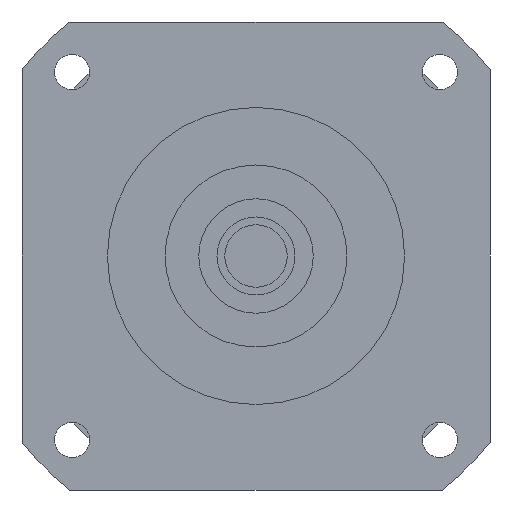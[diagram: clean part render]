
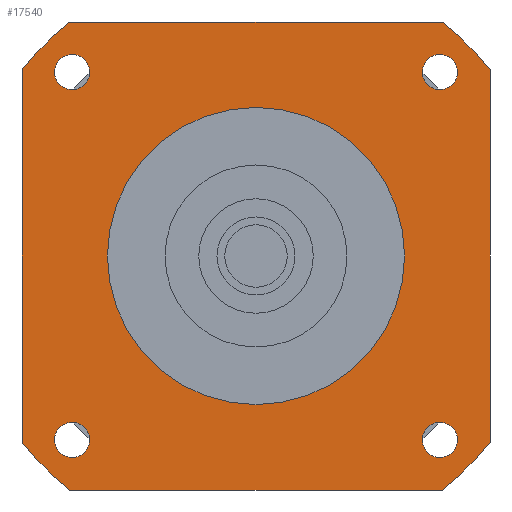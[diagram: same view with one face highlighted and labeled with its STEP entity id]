
A CAD part, left-side view. The second image highlights one B-rep face of the part: STEP entity #17540.
In plain terms, the highlighted planar face has unit normal (-1, 0, 0) as drawn and (0, 0, -1) by its records, which use the part's own axes.
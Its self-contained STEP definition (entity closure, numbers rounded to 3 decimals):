
#13210=CARTESIAN_POINT('',(63.961,-70.711,-66.7));
#13220=VERTEX_POINT('',#13210);
#13250=CARTESIAN_POINT('',(70.711,-70.711,-66.7));
#13260=DIRECTION('',(0.,0.,-1.));
#13270=DIRECTION('',(1.,0.,0.));
#13280=AXIS2_PLACEMENT_3D('',#13250,#13260,#13270);
#13290=CIRCLE('',#13280,6.75);
#13300=CARTESIAN_POINT('',(77.461,-70.711,-66.7));
#13310=VERTEX_POINT('',#13300);
#13320=EDGE_CURVE('',#13310,#13220,#13290,.T.);
#15970=CARTESIAN_POINT('',(70.711,63.961,-66.7));
#15980=VERTEX_POINT('',#15970);
#16010=CARTESIAN_POINT('',(70.711,70.711,-66.7));
#16020=DIRECTION('',(0.,0.,-1.));
#16030=DIRECTION('',(0.,1.,0.));
#16040=AXIS2_PLACEMENT_3D('',#16010,#16020,#16030);
#16050=CIRCLE('',#16040,6.75);
#16060=CARTESIAN_POINT('',(70.711,77.461,-66.7));
#16070=VERTEX_POINT('',#16060);
#16080=EDGE_CURVE('',#16070,#15980,#16050,.T.);
#16200=CARTESIAN_POINT('',(90.,90.,-66.7));
#16210=DIRECTION('',(0.,0.,-1.));
#16220=DIRECTION('',(1.,0.,0.));
#16230=AXIS2_PLACEMENT_3D('',#16200,#16210,#16220);
#16240=PLANE('',#16230);
#16250=CARTESIAN_POINT('',(-70.711,-70.711,-66.7));
#16260=DIRECTION('',(0.,0.,-1.));
#16270=DIRECTION('',(0.,-1.,0.));
#16280=AXIS2_PLACEMENT_3D('',#16250,#16260,#16270);
#16290=CIRCLE('',#16280,6.75);
#16300=CARTESIAN_POINT('',(-70.711,-77.461,-66.7));
#16310=VERTEX_POINT('',#16300);
#16320=CARTESIAN_POINT('',(-70.711,-63.961,-66.7));
#16330=VERTEX_POINT('',#16320);
#16340=EDGE_CURVE('',#16310,#16330,#16290,.T.);
#16350=ORIENTED_EDGE('',*,*,#16340,.F.);
#16360=EDGE_CURVE('',#16330,#16310,#16290,.T.);
#16370=ORIENTED_EDGE('',*,*,#16360,.F.);
#16380=EDGE_LOOP('',(#16370,#16350));
#16390=FACE_BOUND('',#16380,.T.);
#16400=CARTESIAN_POINT('',(-70.711,70.711,-66.7));
#16410=DIRECTION('',(0.,0.,-1.));
#16420=DIRECTION('',(-1.,0.,0.));
#16430=AXIS2_PLACEMENT_3D('',#16400,#16410,#16420);
#16440=CIRCLE('',#16430,6.75);
#16450=CARTESIAN_POINT('',(-77.461,70.711,-66.7));
#16460=VERTEX_POINT('',#16450);
#16470=CARTESIAN_POINT('',(-63.961,70.711,-66.7));
#16480=VERTEX_POINT('',#16470);
#16490=EDGE_CURVE('',#16460,#16480,#16440,.T.);
#16500=ORIENTED_EDGE('',*,*,#16490,.F.);
#16510=EDGE_CURVE('',#16480,#16460,#16440,.T.);
#16520=ORIENTED_EDGE('',*,*,#16510,.F.);
#16530=EDGE_LOOP('',(#16520,#16500));
#16540=FACE_BOUND('',#16530,.T.);
#16550=ORIENTED_EDGE('',*,*,#16080,.F.);
#16560=EDGE_CURVE('',#15980,#16070,#16050,.T.);
#16570=ORIENTED_EDGE('',*,*,#16560,.F.);
#16580=EDGE_LOOP('',(#16570,#16550));
#16590=FACE_BOUND('',#16580,.T.);
#16600=CARTESIAN_POINT('',(0.,0.,
-66.7));
#16610=DIRECTION('',(0.,0.,1.));
#16620=DIRECTION('',(0.,1.,0.));
#16630=AXIS2_PLACEMENT_3D('',#16600,#16610,#16620);
#16640=CIRCLE('',#16630,57.15);
#16650=CARTESIAN_POINT('',(-57.15,0.,-66.7));
#16660=VERTEX_POINT('',#16650);
#16670=CARTESIAN_POINT('',(57.15,0.,-66.7));
#16680=VERTEX_POINT('',#16670);
#16690=EDGE_CURVE('',#16660,#16680,#16640,.T.);
#16700=ORIENTED_EDGE('',*,*,#16690,.T.);
#16710=CARTESIAN_POINT('',(0.,57.15,-66.7));
#16720=VERTEX_POINT('',#16710);
#16730=EDGE_CURVE('',#16720,#16660,#16640,.T.);
#16740=ORIENTED_EDGE('',*,*,#16730,.T.);
#16750=EDGE_CURVE('',#16680,#16720,#16640,.T.);
#16760=ORIENTED_EDGE('',*,*,#16750,.T.);
#16770=EDGE_LOOP('',(#16760,#16740,#16700));
#16780=FACE_BOUND('',#16770,.T.);
#16790=CARTESIAN_POINT('',(-90.,90.,-66.7));
#16800=DIRECTION('',(1.,0.,0.));
#16810=VECTOR('',#16800,1000.);
#16820=LINE('',#16790,#16810);
#16830=CARTESIAN_POINT('',(-71.589,90.,-66.7));
#16840=VERTEX_POINT('',#16830);
#16850=CARTESIAN_POINT('',(71.589,90.,-66.7));
#16860=VERTEX_POINT('',#16850);
#16870=EDGE_CURVE('',#16840,#16860,#16820,.T.);
#16880=ORIENTED_EDGE('',*,*,#16870,.T.);
#16890=CARTESIAN_POINT('',(0.,0.,
-66.7));
#16900=DIRECTION('',(0.,0.,-1.));
#16910=DIRECTION('',(1.,0.,0.));
#16920=AXIS2_PLACEMENT_3D('',#16890,#16900,#16910);
#16930=CIRCLE('',#16920,115.);
#16940=CARTESIAN_POINT('',(-90.,71.589,-66.7));
#16950=VERTEX_POINT('',#16940);
#16960=EDGE_CURVE('',#16950,#16840,#16930,.T.);
#16970=ORIENTED_EDGE('',*,*,#16960,.T.);
#16980=CARTESIAN_POINT('',(-90.,-90.,-66.7));
#16990=DIRECTION('',(0.,1.,0.));
#17000=VECTOR('',#16990,1000.);
#17010=LINE('',#16980,#17000);
#17020=CARTESIAN_POINT('',(-90.,-71.589,-66.7));
#17030=VERTEX_POINT('',#17020);
#17040=EDGE_CURVE('',#17030,#16950,#17010,.T.);
#17050=ORIENTED_EDGE('',*,*,#17040,.T.);
#17060=CARTESIAN_POINT('',(0.,0.,
-66.7));
#17070=DIRECTION('',(0.,0.,-1.));
#17080=DIRECTION('',(1.,0.,0.));
#17090=AXIS2_PLACEMENT_3D('',#17060,#17070,#17080);
#17100=CIRCLE('',#17090,115.);
#17110=CARTESIAN_POINT('',(-71.589,-90.,-66.7));
#17120=VERTEX_POINT('',#17110);
#17130=EDGE_CURVE('',#17120,#17030,#17100,.T.);
#17140=ORIENTED_EDGE('',*,*,#17130,.T.);
#17150=CARTESIAN_POINT('',(90.,-90.,-66.7));
#17160=DIRECTION('',(-1.,0.,0.));
#17170=VECTOR('',#17160,1000.);
#17180=LINE('',#17150,#17170);
#17190=CARTESIAN_POINT('',(71.589,-90.,-66.7));
#17200=VERTEX_POINT('',#17190);
#17210=EDGE_CURVE('',#17200,#17120,#17180,.T.);
#17220=ORIENTED_EDGE('',*,*,#17210,.T.);
#17230=CARTESIAN_POINT('',(0.,0.,
-66.7));
#17240=DIRECTION('',(0.,0.,-1.));
#17250=DIRECTION('',(1.,0.,0.));
#17260=AXIS2_PLACEMENT_3D('',#17230,#17240,#17250);
#17270=CIRCLE('',#17260,115.);
#17280=CARTESIAN_POINT('',(90.,-71.589,-66.7));
#17290=VERTEX_POINT('',#17280);
#17300=EDGE_CURVE('',#17290,#17200,#17270,.T.);
#17310=ORIENTED_EDGE('',*,*,#17300,.T.);
#17320=CARTESIAN_POINT('',(90.,90.,-66.7));
#17330=DIRECTION('',(0.,-1.,0.));
#17340=VECTOR('',#17330,1000.);
#17350=LINE('',#17320,#17340);
#17360=CARTESIAN_POINT('',(90.,71.589,-66.7));
#17370=VERTEX_POINT('',#17360);
#17380=EDGE_CURVE('',#17370,#17290,#17350,.T.);
#17390=ORIENTED_EDGE('',*,*,#17380,.T.);
#17400=CARTESIAN_POINT('',(0.,0.,
-66.7));
#17410=DIRECTION('',(0.,0.,-1.));
#17420=DIRECTION('',(1.,0.,0.));
#17430=AXIS2_PLACEMENT_3D('',#17400,#17410,#17420);
#17440=CIRCLE('',#17430,115.);
#17450=EDGE_CURVE('',#16860,#17370,#17440,.T.);
#17460=ORIENTED_EDGE('',*,*,#17450,.T.);
#17470=EDGE_LOOP('',(#17460,#17390,#17310,#17220,#17140,#17050,#16970,
#16880));
#17480=FACE_OUTER_BOUND('',#17470,.T.);
#17490=ORIENTED_EDGE('',*,*,#13320,.F.);
#17500=EDGE_CURVE('',#13220,#13310,#13290,.T.);
#17510=ORIENTED_EDGE('',*,*,#17500,.F.);
#17520=EDGE_LOOP('',(#17510,#17490));
#17530=FACE_BOUND('',#17520,.T.);
#17540=ADVANCED_FACE('',(#16390,#16540,#16590,#16780,#17480,#17530),
#16240,.T.);
